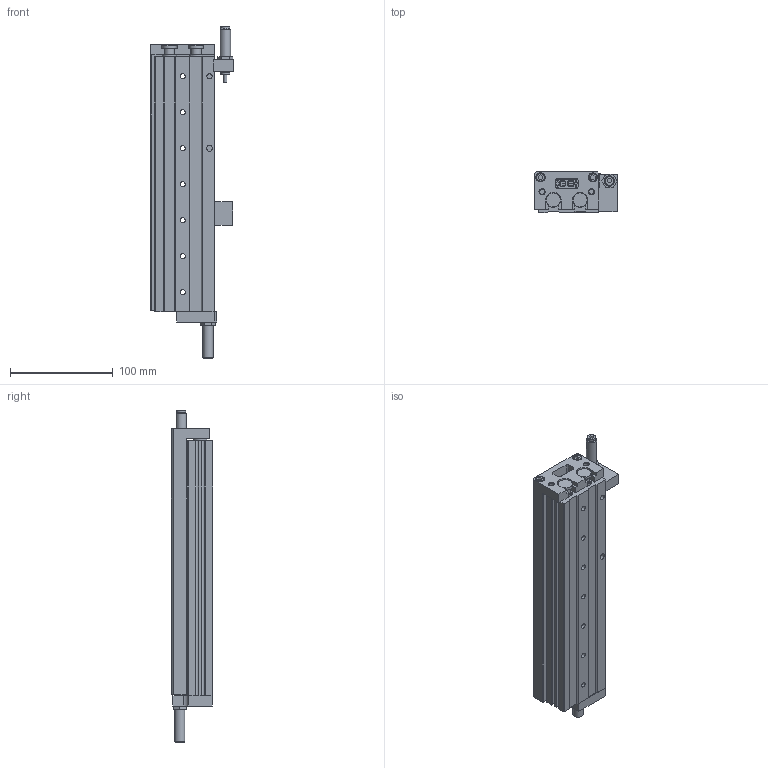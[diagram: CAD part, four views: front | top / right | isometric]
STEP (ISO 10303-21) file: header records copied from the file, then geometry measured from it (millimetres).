
FILE_DESCRIPTION( ( 'STEP AP214' ), '1' );
FILE_NAME( 'C:/Users/EMC02301/Desktop/ELSL图纸/ELSL16X125-S-B.stp', '2026-08-05T07:46:53', ( 'License CC BY-ND 4.0' ), ( 'CADENAS' ), ' ', 'PARTsolutions', ' ' );
FILE_SCHEMA( ( 'AUTOMOTIVE_DESIGN { 1 0 10303 214 1 1 1 1 }' ) );
Length unit declared in the file: millimetre
Products named in the file (6): ELSL16X125-S-B(0)(); _ELSL16X125-S-B(HX-07)(HX-07-1)(0-body); _ELSL16X125-S-B(0-rod); _FJ-ELS16-B; _FJ-ELSL16-B-(BS); _FJ-ELSL16-B-(BF)
Assembly tree (5 placements, depth 2):
  ELSL16X125-S-B(0)()
    _ELSL16X125-S-B(HX-07)(HX-07-1)(0-body)
    _ELSL16X125-S-B(0-rod)
    _FJ-ELS16-B
    _FJ-ELSL16-B-(BS)
    _FJ-ELSL16-B-(BF)
Bounding box: 80 x 40 x 323 mm (x, y, z)
Volume: 556483.8 mm3; surface area: 173613.5 mm2
Topology: 5 solids, 5 shells, 603 faces, 1436 edges, 949 vertices
Faces by surface type: plane 447, cylinder 124, cone 30, torus 2
Full cylindrical faces by diameter (mm): 3 x2, 4.134 x14, 4.459 x2, 4.917 x9, 5 x2, 5.1 x7, 5.5 x8, 6.5 x8, 6.933 x2, 7.267 x2, 7.333 x2, 7.667 x2, 8 x9, 8.5 x2, 8.6 x2, 9 x6, 10 x4, 10.5 x14, 14 x6, 16 x4, 18 x2
Entity records: 21394 total; most frequent: CARTESIAN_POINT 2807, DIRECTION 2776, ORIENTED_EDGE 2544, EDGE_CURVE 1272, LINE 986, VECTOR 986, VERTEX_POINT 926, AXIS2_PLACEMENT_3D 895
